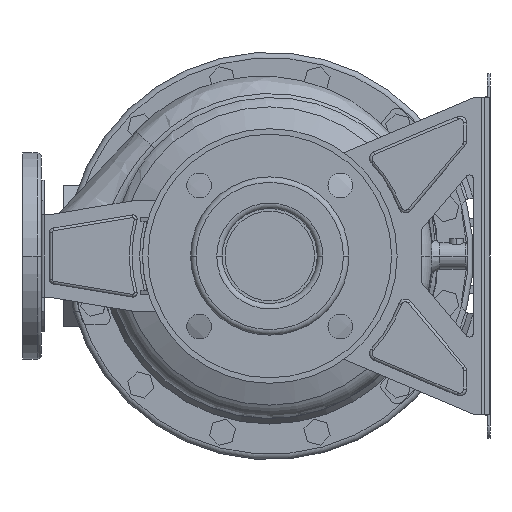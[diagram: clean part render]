
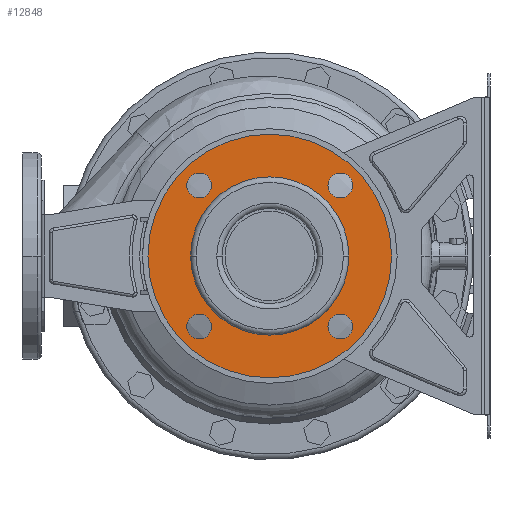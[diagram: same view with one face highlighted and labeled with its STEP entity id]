
A CAD part, left-side view. The second image highlights one B-rep face of the part: STEP entity #12848.
In plain terms, the highlighted planar face has unit normal (-1, 0, 0).
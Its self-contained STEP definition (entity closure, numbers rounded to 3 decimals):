
#12181=CARTESIAN_POINT('',(12.,0.,0.));
#12182=DIRECTION('',(-1.,0.,0.));
#12183=DIRECTION('',(0.,1.,0.));
#12184=AXIS2_PLACEMENT_3D('',#12181,#12182,#12183);
#12189=CARTESIAN_POINT('',(12.,0.,0.));
#12190=DIRECTION('',(1.,0.,0.));
#12191=DIRECTION('',(0.,1.,0.));
#12192=AXIS2_PLACEMENT_3D('',#12189,#12190,#12191);
#12197=CARTESIAN_POINT('',(12.,-51.265,51.265));
#12198=DIRECTION('',(1.,0.,0.));
#12199=DIRECTION('',(0.,1.,0.));
#12200=AXIS2_PLACEMENT_3D('',#12197,#12198,#12199);
#12205=CARTESIAN_POINT('',(12.,-51.265,51.265));
#12206=DIRECTION('',(1.,0.,0.));
#12207=DIRECTION('',(0.,-1.,0.));
#12208=AXIS2_PLACEMENT_3D('',#12205,#12206,#12207);
#12213=CARTESIAN_POINT('',(12.,-51.265,-51.265));
#12214=DIRECTION('',(1.,0.,0.));
#12215=DIRECTION('',(0.,0.,1.));
#12216=AXIS2_PLACEMENT_3D('',#12213,#12214,#12215);
#12221=CARTESIAN_POINT('',(12.,-51.265,-51.265));
#12222=DIRECTION('',(1.,0.,0.));
#12223=DIRECTION('',(0.,0.,-1.));
#12224=AXIS2_PLACEMENT_3D('',#12221,#12222,#12223);
#12229=CARTESIAN_POINT('',(12.,51.265,-51.265));
#12230=DIRECTION('',(1.,0.,0.));
#12231=DIRECTION('',(0.,-1.,0.));
#12232=AXIS2_PLACEMENT_3D('',#12229,#12230,#12231);
#12237=CARTESIAN_POINT('',(12.,51.265,-51.265));
#12238=DIRECTION('',(1.,0.,0.));
#12239=DIRECTION('',(0.,1.,0.));
#12240=AXIS2_PLACEMENT_3D('',#12237,#12238,#12239);
#12245=CARTESIAN_POINT('',(12.,51.265,51.265));
#12246=DIRECTION('',(1.,0.,0.));
#12247=DIRECTION('',(0.,0.,-1.));
#12248=AXIS2_PLACEMENT_3D('',#12245,#12246,#12247);
#12253=CARTESIAN_POINT('',(12.,51.265,51.265));
#12254=DIRECTION('',(1.,0.,0.));
#12255=DIRECTION('',(0.,0.,1.));
#12256=AXIS2_PLACEMENT_3D('',#12253,#12254,#12255);
#12261=CARTESIAN_POINT('',(12.,0.,0.));
#12262=DIRECTION('',(1.,0.,0.));
#12263=DIRECTION('',(0.,1.,0.));
#12264=AXIS2_PLACEMENT_3D('',#12261,#12262,#12263);
#12283=CARTESIAN_POINT('',(12.,0.,0.));
#12284=DIRECTION('',(-1.,0.,0.));
#12285=DIRECTION('',(0.,1.,0.));
#12286=AXIS2_PLACEMENT_3D('',#12283,#12284,#12285);
#12448=CARTESIAN_POINT('',(12.,88.5,0.));
#12450=VERTEX_POINT('',#12448);
#12451=CARTESIAN_POINT('',(12.,57.5,0.));
#12453=VERTEX_POINT('',#12451);
#12480=CARTESIAN_POINT('',(12.,-88.5,0.));
#12482=VERTEX_POINT('',#12480);
#12483=CARTESIAN_POINT('',(12.,-57.5,0.));
#12485=VERTEX_POINT('',#12483);
#12495=CARTESIAN_POINT('',(12.,-42.265,51.265));
#12496=CARTESIAN_POINT('',(12.,-60.265,51.265));
#12497=VERTEX_POINT('',#12495);
#12498=VERTEX_POINT('',#12496);
#12503=CARTESIAN_POINT('',(12.,-51.265,-42.265));
#12504=CARTESIAN_POINT('',(12.,-51.265,-60.265));
#12505=VERTEX_POINT('',#12503);
#12506=VERTEX_POINT('',#12504);
#12511=CARTESIAN_POINT('',(12.,42.265,-51.265));
#12512=CARTESIAN_POINT('',(12.,60.265,-51.265));
#12513=VERTEX_POINT('',#12511);
#12514=VERTEX_POINT('',#12512);
#12519=CARTESIAN_POINT('',(12.,51.265,42.265));
#12520=CARTESIAN_POINT('',(12.,51.265,60.265));
#12521=VERTEX_POINT('',#12519);
#12522=VERTEX_POINT('',#12520);
#12809=CARTESIAN_POINT('',(12.,0.,0.));
#12810=DIRECTION('',(1.,0.,0.));
#12811=DIRECTION('',(0.,-1.,0.));
#12812=AXIS2_PLACEMENT_3D('',#12809,#12810,#12811);
#12813=PLANE('',#12812);
#12814=ORIENTED_EDGE('',*,*,#12802,.F.);
#12815=ORIENTED_EDGE('',*,*,#12791,.T.);
#12816=EDGE_LOOP('',(#12814,#12815));
#12817=FACE_OUTER_BOUND('',#12816,.F.);
#12819=ORIENTED_EDGE('',*,*,#12818,.F.);
#12821=ORIENTED_EDGE('',*,*,#12820,.T.);
#12822=EDGE_LOOP('',(#12819,#12821));
#12823=FACE_BOUND('',#12822,.F.);
#12825=ORIENTED_EDGE('',*,*,#12824,.F.);
#12827=ORIENTED_EDGE('',*,*,#12826,.F.);
#12828=EDGE_LOOP('',(#12825,#12827));
#12829=FACE_BOUND('',#12828,.F.);
#12831=ORIENTED_EDGE('',*,*,#12830,.F.);
#12833=ORIENTED_EDGE('',*,*,#12832,.F.);
#12834=EDGE_LOOP('',(#12831,#12833));
#12835=FACE_BOUND('',#12834,.F.);
#12837=ORIENTED_EDGE('',*,*,#12836,.F.);
#12839=ORIENTED_EDGE('',*,*,#12838,.F.);
#12840=EDGE_LOOP('',(#12837,#12839));
#12841=FACE_BOUND('',#12840,.F.);
#12843=ORIENTED_EDGE('',*,*,#12842,.F.);
#12845=ORIENTED_EDGE('',*,*,#12844,.F.);
#12846=EDGE_LOOP('',(#12843,#12845));
#12847=FACE_BOUND('',#12846,.F.);
#12185=CIRCLE('',#12184,88.5);
#12193=CIRCLE('',#12192,88.5);
#12201=CIRCLE('',#12200,9.);
#12209=CIRCLE('',#12208,9.);
#12217=CIRCLE('',#12216,9.);
#12225=CIRCLE('',#12224,9.);
#12233=CIRCLE('',#12232,9.);
#12241=CIRCLE('',#12240,9.);
#12249=CIRCLE('',#12248,9.);
#12257=CIRCLE('',#12256,9.);
#12265=CIRCLE('',#12264,57.5);
#12287=CIRCLE('',#12286,57.5);
#12791=EDGE_CURVE('',#12450,#12482,#12193,.T.);
#12802=EDGE_CURVE('',#12450,#12482,#12185,.T.);
#12818=EDGE_CURVE('',#12453,#12485,#12265,.T.);
#12820=EDGE_CURVE('',#12453,#12485,#12287,.T.);
#12824=EDGE_CURVE('',#12497,#12498,#12201,.T.);
#12826=EDGE_CURVE('',#12498,#12497,#12209,.T.);
#12830=EDGE_CURVE('',#12505,#12506,#12217,.T.);
#12832=EDGE_CURVE('',#12506,#12505,#12225,.T.);
#12836=EDGE_CURVE('',#12513,#12514,#12233,.T.);
#12838=EDGE_CURVE('',#12514,#12513,#12241,.T.);
#12842=EDGE_CURVE('',#12521,#12522,#12249,.T.);
#12844=EDGE_CURVE('',#12522,#12521,#12257,.T.);
#12848=ADVANCED_FACE('',(#12817,#12823,#12829,#12835,#12841,#12847),#12813,.F.);
